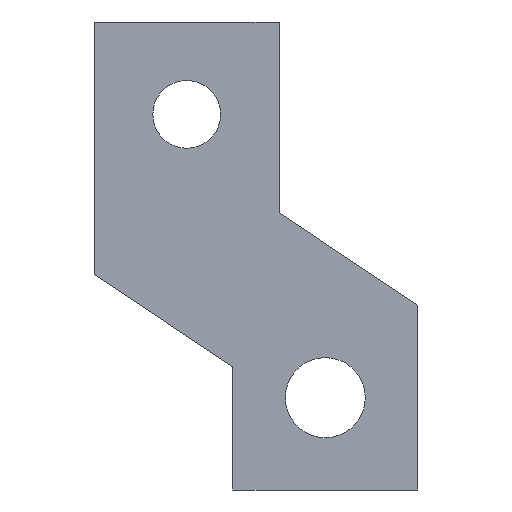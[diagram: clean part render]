
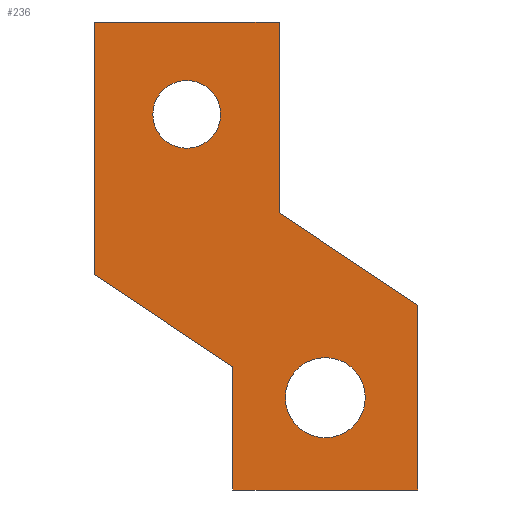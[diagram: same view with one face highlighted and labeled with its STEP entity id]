
A CAD part, front view. The second image highlights one B-rep face of the part: STEP entity #236.
In plain terms, the highlighted planar face has unit normal (0, -1, 0).
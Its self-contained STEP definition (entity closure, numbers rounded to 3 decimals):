
#1=CARTESIAN_POINT('',(0.,0.,0.));
#2=DIRECTION('',(0.,-1.,0.));
#3=DIRECTION('',(1.,0.,0.));
#4=AXIS2_PLACEMENT_3D('',#1,#2,#3);
#6=CARTESIAN_POINT('',(0.,0.,0.));
#7=DIRECTION('',(0.,-1.,0.));
#8=DIRECTION('',(-1.,0.,0.));
#9=AXIS2_PLACEMENT_3D('',#6,#7,#8);
#11=CARTESIAN_POINT('',(22.5,0.,-46.));
#12=DIRECTION('',(0.,-1.,0.));
#13=DIRECTION('',(1.,0.,0.));
#14=AXIS2_PLACEMENT_3D('',#11,#12,#13);
#16=CARTESIAN_POINT('',(22.5,0.,-46.));
#17=DIRECTION('',(0.,-1.,0.));
#18=DIRECTION('',(-1.,0.,0.));
#19=AXIS2_PLACEMENT_3D('',#16,#17,#18);
#21=DIRECTION('',(1.,0.,0.));
#22=VECTOR('',#21,30.);
#23=CARTESIAN_POINT('',(-15.,0.,15.));
#24=LINE('',#23,#22);
#25=DIRECTION('',(0.,0.,-1.));
#26=VECTOR('',#25,31.);
#27=CARTESIAN_POINT('',(15.,0.,15.));
#28=LINE('',#27,#26);
#29=DIRECTION('',(0.832,0.,-0.555));
#30=VECTOR('',#29,27.042);
#31=CARTESIAN_POINT('',(15.,0.,-16.));
#32=LINE('',#31,#30);
#33=DIRECTION('',(0.,0.,-1.));
#34=VECTOR('',#33,30.);
#35=CARTESIAN_POINT('',(37.5,0.,-31.));
#36=LINE('',#35,#34);
#37=DIRECTION('',(-1.,0.,0.));
#38=VECTOR('',#37,30.);
#39=CARTESIAN_POINT('',(37.5,0.,-61.));
#40=LINE('',#39,#38);
#41=DIRECTION('',(0.,0.,1.));
#42=VECTOR('',#41,20.);
#43=CARTESIAN_POINT('',(7.5,0.,-61.));
#44=LINE('',#43,#42);
#45=DIRECTION('',(-0.832,0.,0.555));
#46=VECTOR('',#45,27.042);
#47=CARTESIAN_POINT('',(7.5,0.,-41.));
#48=LINE('',#47,#46);
#49=DIRECTION('',(0.,0.,1.));
#50=VECTOR('',#49,41.);
#51=CARTESIAN_POINT('',(-15.,0.,-26.));
#52=LINE('',#51,#50);
#153=CARTESIAN_POINT('',(5.5,0.,0.));
#154=CARTESIAN_POINT('',(-5.5,0.,0.));
#155=VERTEX_POINT('',#153);
#156=VERTEX_POINT('',#154);
#157=CARTESIAN_POINT('',(29.,0.,-46.));
#158=CARTESIAN_POINT('',(16.,0.,-46.));
#159=VERTEX_POINT('',#157);
#160=VERTEX_POINT('',#158);
#161=CARTESIAN_POINT('',(-15.,0.,15.));
#162=CARTESIAN_POINT('',(15.,0.,15.));
#163=VERTEX_POINT('',#161);
#164=VERTEX_POINT('',#162);
#165=CARTESIAN_POINT('',(15.,0.,-16.));
#166=VERTEX_POINT('',#165);
#167=CARTESIAN_POINT('',(37.5,0.,-31.));
#168=VERTEX_POINT('',#167);
#169=CARTESIAN_POINT('',(37.5,0.,-61.));
#170=VERTEX_POINT('',#169);
#171=CARTESIAN_POINT('',(7.5,0.,-61.));
#172=VERTEX_POINT('',#171);
#173=CARTESIAN_POINT('',(7.5,0.,-41.));
#174=VERTEX_POINT('',#173);
#175=CARTESIAN_POINT('',(-15.,0.,-26.));
#176=VERTEX_POINT('',#175);
#201=CARTESIAN_POINT('',(0.,0.,0.));
#202=DIRECTION('',(0.,1.,0.));
#203=DIRECTION('',(1.,0.,0.));
#204=AXIS2_PLACEMENT_3D('',#201,#202,#203);
#205=PLANE('',#204);
#207=ORIENTED_EDGE('',*,*,#206,.T.);
#209=ORIENTED_EDGE('',*,*,#208,.T.);
#211=ORIENTED_EDGE('',*,*,#210,.T.);
#213=ORIENTED_EDGE('',*,*,#212,.T.);
#215=ORIENTED_EDGE('',*,*,#214,.T.);
#217=ORIENTED_EDGE('',*,*,#216,.T.);
#219=ORIENTED_EDGE('',*,*,#218,.T.);
#221=ORIENTED_EDGE('',*,*,#220,.T.);
#222=EDGE_LOOP('',(#207,#209,#211,#213,#215,#217,#219,#221));
#223=FACE_OUTER_BOUND('',#222,.F.);
#225=ORIENTED_EDGE('',*,*,#224,.T.);
#227=ORIENTED_EDGE('',*,*,#226,.T.);
#228=EDGE_LOOP('',(#225,#227));
#229=FACE_BOUND('',#228,.F.);
#231=ORIENTED_EDGE('',*,*,#230,.T.);
#233=ORIENTED_EDGE('',*,*,#232,.T.);
#234=EDGE_LOOP('',(#231,#233));
#235=FACE_BOUND('',#234,.F.);
#236=ADVANCED_FACE('',(#223,#229,#235),#205,.F.);
#5=CIRCLE('',#4,5.5);
#10=CIRCLE('',#9,5.5);
#15=CIRCLE('',#14,6.5);
#20=CIRCLE('',#19,6.5);
#206=EDGE_CURVE('',#163,#164,#24,.T.);
#208=EDGE_CURVE('',#164,#166,#28,.T.);
#210=EDGE_CURVE('',#166,#168,#32,.T.);
#212=EDGE_CURVE('',#168,#170,#36,.T.);
#214=EDGE_CURVE('',#170,#172,#40,.T.);
#216=EDGE_CURVE('',#172,#174,#44,.T.);
#218=EDGE_CURVE('',#174,#176,#48,.T.);
#220=EDGE_CURVE('',#176,#163,#52,.T.);
#224=EDGE_CURVE('',#155,#156,#5,.T.);
#226=EDGE_CURVE('',#156,#155,#10,.T.);
#230=EDGE_CURVE('',#159,#160,#15,.T.);
#232=EDGE_CURVE('',#160,#159,#20,.T.);
